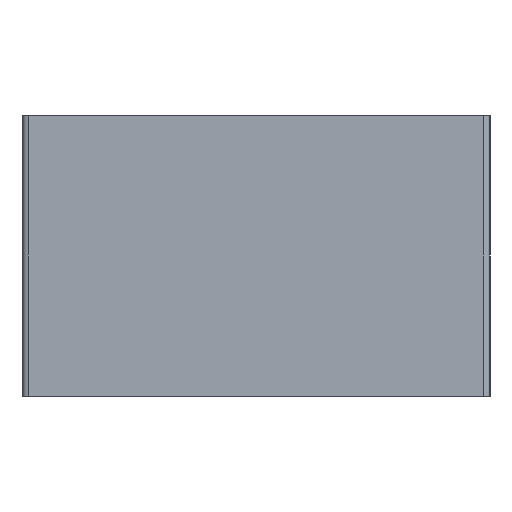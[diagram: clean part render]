
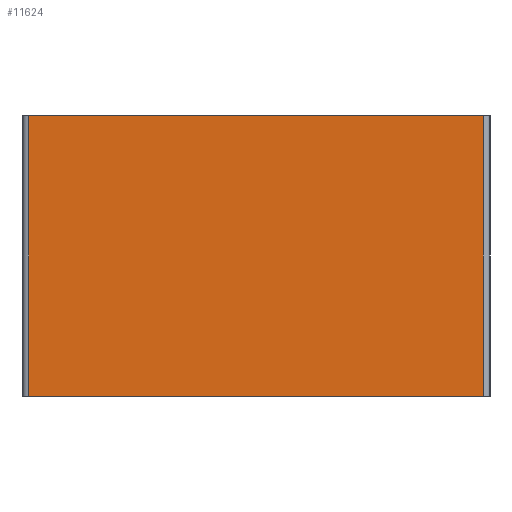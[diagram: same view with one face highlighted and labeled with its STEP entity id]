
A CAD part, left-side view. The second image highlights one B-rep face of the part: STEP entity #11624.
In plain terms, the highlighted planar face has unit normal (-1, 0, 0).
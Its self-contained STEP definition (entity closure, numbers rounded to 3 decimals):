
#3896 = CARTESIAN_POINT ( 'NONE',  ( -95.25, 52.5, -31.5 ) ) ;
#4473 = LINE ( 'NONE', #59844, #70123 ) ;
#8906 = VECTOR ( 'NONE', #77604, 1000. ) ;
#9402 = EDGE_CURVE ( 'NONE', #75689, #74079, #29442, .T. ) ;
#9852 = LINE ( 'NONE', #77883, #8906 ) ;
#11624 = ADVANCED_FACE ( 'NONE', ( #35091 ), #73637, .T. ) ;
#12727 = DIRECTION ( 'NONE',  ( 0., 0., -1. ) ) ;
#13478 = EDGE_CURVE ( 'NONE', #49304, #21153, #9852, .T. ) ;
#15313 = VECTOR ( 'NONE', #12727, 1000. ) ;
#17013 = EDGE_LOOP ( 'NONE', ( #20759, #67532, #35355, #24859 ) ) ;
#18268 = LINE ( 'NONE', #31899, #15313 ) ;
#20759 = ORIENTED_EDGE ( 'NONE', *, *, #13478, .T. ) ;
#21153 = VERTEX_POINT ( 'NONE', #39861 ) ;
#21784 = DIRECTION ( 'NONE',  ( 0., 0., 1. ) ) ;
#24859 = ORIENTED_EDGE ( 'NONE', *, *, #39478, .T. ) ;
#25464 = CARTESIAN_POINT ( 'NONE',  ( -95.25, 0., 31.5 ) ) ;
#26752 = AXIS2_PLACEMENT_3D ( 'NONE', #3896, #73082, #34975 ) ;
#29442 = LINE ( 'NONE', #25464, #53291 ) ;
#31899 = CARTESIAN_POINT ( 'NONE',  ( -95.25, 51., -31.5 ) ) ;
#34975 = DIRECTION ( 'NONE',  ( 0., 0., 1. ) ) ;
#35091 = FACE_OUTER_BOUND ( 'NONE', #17013, .T. ) ;
#35355 = ORIENTED_EDGE ( 'NONE', *, *, #9402, .F. ) ;
#36859 = CARTESIAN_POINT ( 'NONE',  ( -95.25, -51., 31.5 ) ) ;
#39478 = EDGE_CURVE ( 'NONE', #75689, #49304, #18268, .T. ) ;
#39861 = CARTESIAN_POINT ( 'NONE',  ( -95.25, -51., -31.5 ) ) ;
#42953 = CARTESIAN_POINT ( 'NONE',  ( -95.25, 51., -31.5 ) ) ;
#47181 = CARTESIAN_POINT ( 'NONE',  ( -95.25, 51., 31.5 ) ) ;
#49304 = VERTEX_POINT ( 'NONE', #42953 ) ;
#53291 = VECTOR ( 'NONE', #69937, 1000. ) ;
#59844 = CARTESIAN_POINT ( 'NONE',  ( -95.25, -51., -31.5 ) ) ;
#64772 = EDGE_CURVE ( 'NONE', #21153, #74079, #4473, .T. ) ;
#67532 = ORIENTED_EDGE ( 'NONE', *, *, #64772, .T. ) ;
#69937 = DIRECTION ( 'NONE',  ( 0., -1., 0. ) ) ;
#70123 = VECTOR ( 'NONE', #21784, 1000. ) ;
#73082 = DIRECTION ( 'NONE',  ( -1., 0., 0. ) ) ;
#73637 = PLANE ( 'NONE',  #26752 ) ;
#74079 = VERTEX_POINT ( 'NONE', #36859 ) ;
#75689 = VERTEX_POINT ( 'NONE', #47181 ) ;
#77604 = DIRECTION ( 'NONE',  ( 0., -1., 0. ) ) ;
#77883 = CARTESIAN_POINT ( 'NONE',  ( -95.25, 0., -31.5 ) ) ;
